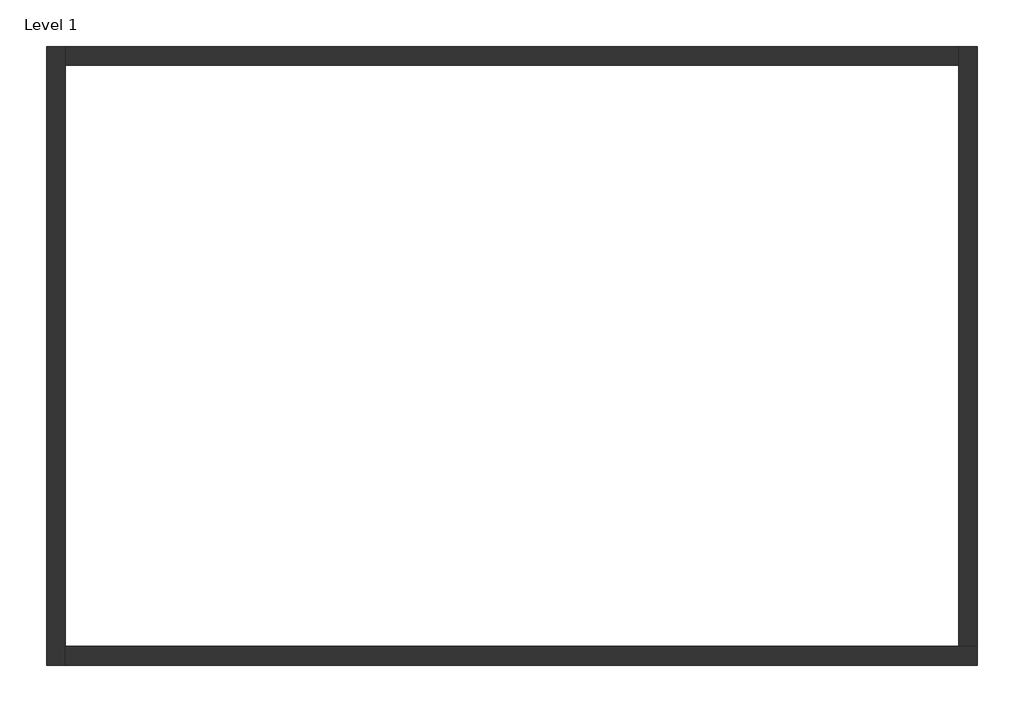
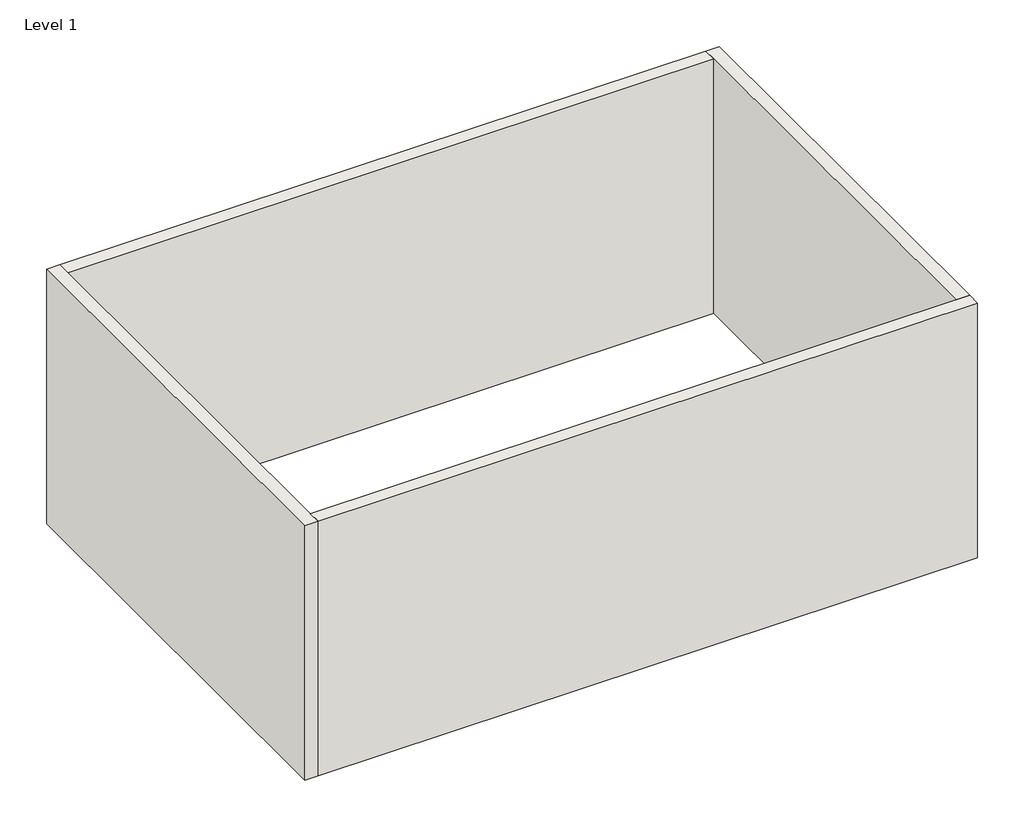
# One storey: 4 walls.
"""IFC4 building model written with IfcOpenShell, lengths in millimetres."""

from ifc_helpers import new_model, si_unit, origin, origin_with_axes, place, context, project, spatial, polyline, outline, extrude, faceted_brep, element, save

model = new_model("IFC4")

# Units and contexts
model_context = context("Model", 3, world=origin())
ifc_project = project(units=[si_unit("LENGTHUNIT", "METRE", prefix="MILLI")], contexts=[model_context])

# Site, building, storey
site = spatial("IfcSite", under=ifc_project)
building = spatial("IfcBuilding", under=site)
storey = spatial("IfcBuildingStorey", under=building, Name="Level 1", Elevation=0.0)

# Walls
placement = place(None, origin())
element("IfcWall", 1, ObjectType="Wall 1", at=placement, inside=storey, context=model_context, shape_type="Brep", body=[
    faceted_brep([(6241.3106808, -9148.3403684, 0.0), (6241.3106808, -8948.3403684, 0.0), (6241.3106808, -2698.3403684, 0.0), (6241.3106808, -2498.3403684, 0.0), (6241.3106808, -2498.3403684, 4000.0), (6241.3106808, -2698.3403684, 4000.0), (6241.3106808, -8948.3403684, 4000.0), (6241.3106808, -9148.3403684, 4000.0), (6041.3106808, -9148.3403684, 0.0), (6041.3106808, -9148.3403684, 4000.0), (6041.3106808, -2498.3403684, 4000.0), (6041.3106808, -2498.3403684, 0.0)], [[[0, 1, 2, 3, 4, 5, 6, 7]], [[8, 9, 10, 11]], [[3, 2, 1, 0, 8, 11]], [[7, 6, 5, 4, 10, 9]], [[0, 7, 9, 8]], [[4, 3, 11, 10]]]),
])
element("IfcWall", 2, ObjectType="Wall 1", at=placement, inside=storey, context=model_context, shape_type="Brep", body=[
    faceted_brep([(16041.3106808, -8948.3403684, 0.0), (15841.3106808, -8948.3403684, 0.0), (6241.3106808, -8948.3403684, 0.0), (6241.3106808, -8948.3403684, 4000.0), (15841.3106808, -8948.3403684, 4000.0), (16041.3106808, -8948.3403684, 4000.0), (16041.3106808, -9148.3403684, 0.0), (16041.3106808, -9148.3403684, 4000.0), (6241.3106808, -9148.3403684, 4000.0), (6241.3106808, -9148.3403684, 0.0)], [[[0, 1, 2, 3, 4, 5]], [[6, 7, 8, 9]], [[2, 1, 0, 6, 9]], [[5, 4, 3, 8, 7]], [[3, 2, 9, 8]], [[0, 5, 7, 6]]]),
])
element("IfcWall", 3, ObjectType="Wall 1", at=placement, inside=storey, context=model_context, shape_type="Brep", body=[
    faceted_brep([(15841.3106808, -2498.3403684, 0.0), (15841.3106808, -2698.3403684, 0.0), (15841.3106808, -8948.3403684, 0.0), (15841.3106808, -8948.3403684, 4000.0), (15841.3106808, -2698.3403684, 4000.0), (15841.3106808, -2498.3403684, 4000.0), (16041.3106808, -2498.3403684, 0.0), (16041.3106808, -2498.3403684, 4000.0), (16041.3106808, -8948.3403684, 4000.0), (16041.3106808, -8948.3403684, 0.0)], [[[0, 1, 2, 3, 4, 5]], [[6, 7, 8, 9]], [[2, 1, 0, 6, 9]], [[5, 4, 3, 8, 7]], [[0, 5, 7, 6]], [[3, 2, 9, 8]]]),
])
element("IfcWall", 4, ObjectType="Wall 1", at=placement, inside=storey, context=model_context, shape_type="SweptSolid", body=[
    extrude(outline(polyline([(15841.3106808, -2698.3403684), (6241.3106808, -2698.3403684), (6241.3106808, -2498.3403684), (15841.3106808, -2498.3403684), (15841.3106808, -2698.3403684)])), origin_with_axes(), (0.0, 0.0, 1.0), 4000.0),
])

save(model, "model.ifc")
